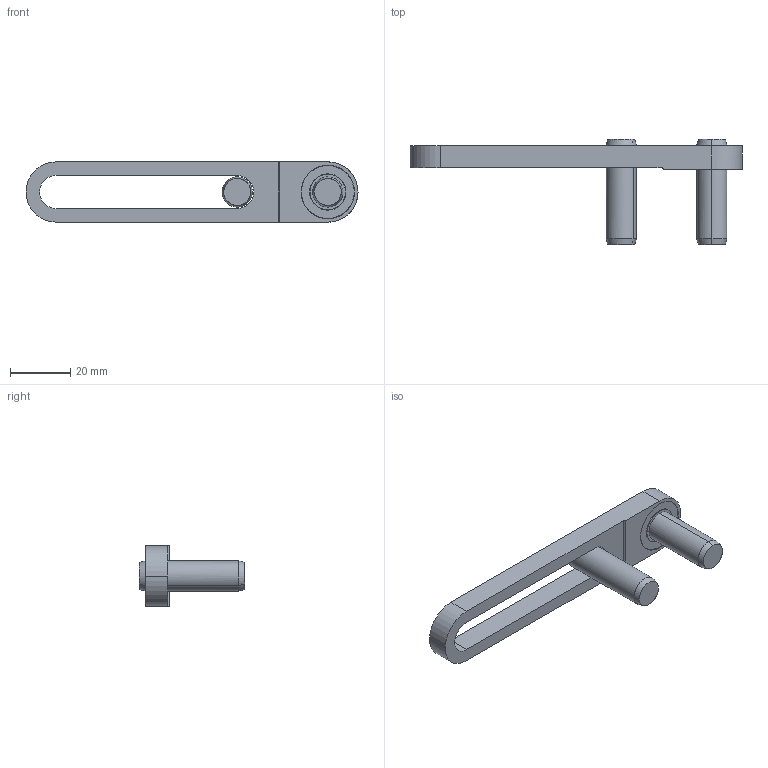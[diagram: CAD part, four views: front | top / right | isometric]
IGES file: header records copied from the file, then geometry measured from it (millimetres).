
Start section: START RECORD GO HERE.
Global section: file name: sl602008.igs; native system: DASSAULT SYSTEMES CATIA V5 R20 - www.3ds.com; preprocessor: CATIA Version 5 Release 20 ; author: Utente; organization: NB04-ASUS; date: 20201107.132648; units: millimetre
Bounding box: 110 x 35 x 20 mm (x, y, z)
Surface area: 9010.6 mm2 (no closed solid volume)
Topology: 0 solids, 0 shells, 50 faces, 216 edges, 216 vertices
Faces by surface type: revolution 35, plane 15
